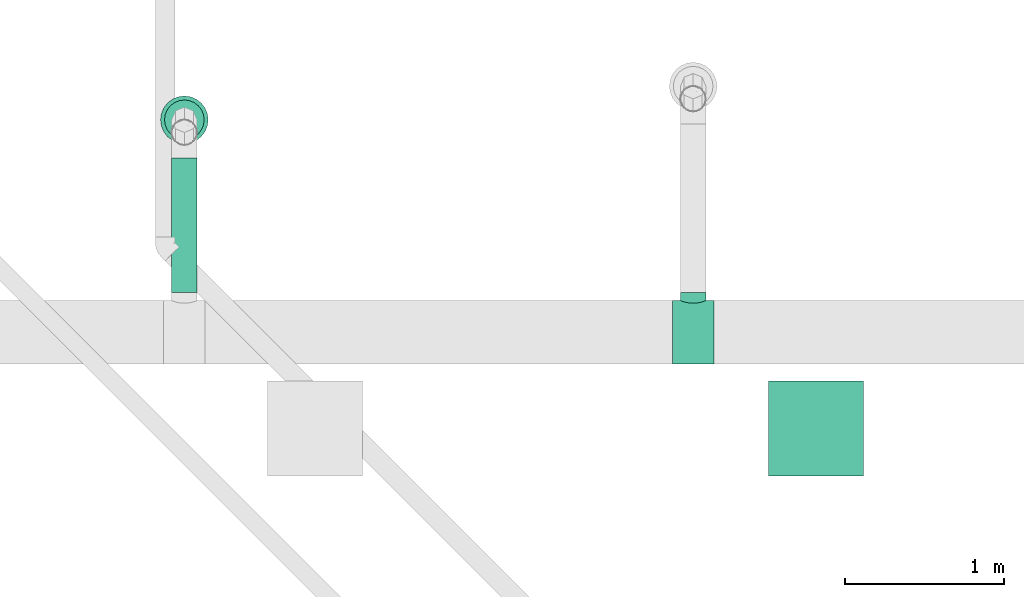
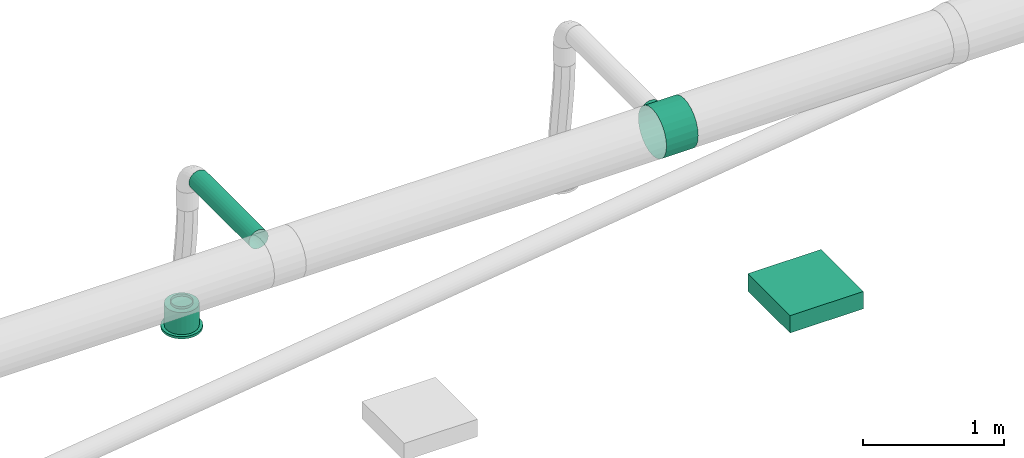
# One storey, part 152 of 374: 1 distribution element, 1 flow fitting, 1 flow segment, 1 flow terminal.
"""IFC2X3 building model written with IfcOpenShell, lengths in metres."""

from ifc_helpers import new_model, si_unit, direction, frame, frame_2d, origin, place, context, subcontext, project, spatial, rectangle, extrude, open_shell, surface_model, source, transform, mapped, element, save


model = new_model("IFC2X3")

# Units and contexts
model_context = context("Model", 3, precision=1e-05, world=origin(), true_north=direction((-0.4480736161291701, 0.8939966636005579)))
body_context = subcontext(model_context, "Body", "Model", "MODEL_VIEW")
ifc_project = project(units=[si_unit("LENGTHUNIT", "METRE"), si_unit("AREAUNIT", "SQUARE_METRE"), si_unit("VOLUMEUNIT", "CUBIC_METRE"), si_unit("PLANEANGLEUNIT", "RADIAN"), si_unit("THERMODYNAMICTEMPERATUREUNIT", "KELVIN"), si_unit("MASSUNIT", "GRAM", prefix="KILO"), si_unit("TIMEUNIT", "SECOND")], contexts=[model_context])

# Site, building, storey
site_placement = place(None, origin())
site = spatial("IfcSite", under=ifc_project, at=site_placement, Name="Site 1", CompositionType="ELEMENT")
building_placement = place(site_placement, origin())
building = spatial("IfcBuilding", under=site, at=building_placement, Name="Undefined", CompositionType="ELEMENT")
storey_placement = place(building_placement, origin())
storey = spatial("IfcBuildingStorey", under=building, at=storey_placement, Name="Rez de chauss\x8ee", CompositionType="ELEMENT", Elevation=0.0)

# Flow terminal
shared_shape_1 = source(origin(), body_context, "Body", "SurfaceModel", [
    surface_model("IfcFaceBasedSurfaceModel", [(0.0, 0.0, 0.0), (0.03915785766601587, 0.0, 0.0), (0.03915785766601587, 0.020000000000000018, 0.0), (3.552713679e-15, 0.020000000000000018, 0.0), (0.07698144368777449, 0.0, -0.010134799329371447), (0.07698144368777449, 0.020000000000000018, -0.010134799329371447), (0.11089314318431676, 0.0, -0.02971372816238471), (0.11089314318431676, 0.020000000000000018, -0.02971372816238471), (0.13858192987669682, 0.0, -0.05740251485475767), (0.13858192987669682, 0.020000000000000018, -0.05740251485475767), (0.15816085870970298, 0.0, -0.09131421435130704), (0.15816085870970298, 0.020000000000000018, -0.09131421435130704), (0.16829565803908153, 0.0, -0.12913780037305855), (0.16829565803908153, 0.020000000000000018, -0.12913780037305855), (0.16829565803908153, 0.0, -0.16829565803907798), (0.16829565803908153, 0.020000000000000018, -0.16829565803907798), (0.15816085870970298, 0.0, -0.20611924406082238), (0.15816085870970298, 0.020000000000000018, -0.20611924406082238), (0.13858192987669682, 0.0, -0.24003094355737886), (0.13858192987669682, 0.020000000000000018, -0.24003094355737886), (0.11089314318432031, 0.0, -0.2677197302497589), (0.11089314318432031, 0.020000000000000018, -0.2677197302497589), (0.07698144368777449, 0.0, -0.2872986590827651), (0.07698144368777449, 0.020000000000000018, -0.2872986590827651), (0.039157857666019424, 0.0, -0.29743345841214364), (0.039157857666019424, 0.020000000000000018, -0.29743345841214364), (3.552713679e-15, 0.0, -0.29743345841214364), (3.552713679e-15, 0.020000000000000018, -0.29743345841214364), (-0.03782358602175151, 0.0, -0.2872986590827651), (-0.03782358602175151, 0.020000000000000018, -0.2872986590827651), (-0.07173528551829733, 0.0, -0.2677197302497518), (-0.07173528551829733, 0.020000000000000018, -0.2677197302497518), (-0.0994240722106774, 0.0, -0.24003094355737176), (-0.0994240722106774, 0.020000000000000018, -0.24003094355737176), (-0.11900300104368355, 0.0, -0.2061192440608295), (-0.11900300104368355, 0.020000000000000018, -0.2061192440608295), (-0.1291378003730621, 0.0, -0.16829565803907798), (-0.1291378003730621, 0.020000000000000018, -0.16829565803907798), (-0.1291378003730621, 0.0, -0.12913780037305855), (-0.1291378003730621, 0.020000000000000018, -0.12913780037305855), (-0.11900300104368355, 0.0, -0.09131421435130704), (-0.11900300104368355, 0.020000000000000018, -0.09131421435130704), (-0.0994240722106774, 0.0, -0.05740251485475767), (-0.0994240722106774, 0.020000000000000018, -0.05740251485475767), (-0.07173528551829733, 0.0, -0.029713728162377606), (-0.07173528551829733, 0.020000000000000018, -0.029713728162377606), (-0.03782358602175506, 0.0, -0.010134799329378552), (-0.03782358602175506, 0.020000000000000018, -0.010134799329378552), (0.019578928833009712, 0.0, -0.14871672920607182), (0.019578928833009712, 0.020000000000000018, -0.14871672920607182), (0.003263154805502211, 0.020000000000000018, -0.02478612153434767), (0.035894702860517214, 0.020000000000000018, -0.02478612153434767), (0.035894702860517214, 0.20999999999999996, -0.02478612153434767), (0.003263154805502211, 0.20999999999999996, -0.02478612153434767), (0.06741435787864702, 0.020000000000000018, -0.033231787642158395), (0.06741435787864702, 0.20999999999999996, -0.033231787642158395), (0.0956741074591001, 0.020000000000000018, -0.04954756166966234), (0.0956741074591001, 0.20999999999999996, -0.04954756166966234), (0.11874809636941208, 0.020000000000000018, -0.07262155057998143), (0.11874809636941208, 0.20999999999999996, -0.07262155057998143), (0.13506387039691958, 0.020000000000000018, -0.10088130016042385), (0.13506387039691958, 0.20999999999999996, -0.10088130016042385), (0.1435095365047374, 0.020000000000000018, -0.13240095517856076), (0.1435095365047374, 0.20999999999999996, -0.13240095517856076), (0.1435095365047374, 0.020000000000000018, -0.16503250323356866), (0.1435095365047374, 0.20999999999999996, -0.16503250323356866), (0.13506387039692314, 0.020000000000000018, -0.19655215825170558), (0.13506387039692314, 0.20999999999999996, -0.19655215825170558), (0.11874809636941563, 0.020000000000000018, -0.2248119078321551), (0.11874809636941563, 0.20999999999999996, -0.2248119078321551), (0.09567410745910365, 0.020000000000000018, -0.24788589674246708), (0.09567410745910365, 0.20999999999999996, -0.24788589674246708), (0.06741435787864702, 0.020000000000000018, -0.26420167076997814), (0.06741435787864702, 0.20999999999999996, -0.26420167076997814), (0.035894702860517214, 0.020000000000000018, -0.27264733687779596), (0.035894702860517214, 0.20999999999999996, -0.27264733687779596), (0.0032631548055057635, 0.020000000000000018, -0.27264733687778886), (0.0032631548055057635, 0.20999999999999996, -0.27264733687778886), (-0.028256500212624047, 0.020000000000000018, -0.26420167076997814), (-0.028256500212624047, 0.20999999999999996, -0.26420167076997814), (-0.05651624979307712, 0.020000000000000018, -0.2478858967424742), (-0.05651624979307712, 0.20999999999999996, -0.2478858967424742), (-0.07959023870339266, 0.020000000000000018, -0.2248119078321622), (-0.07959023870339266, 0.20999999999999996, -0.2248119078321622), (-0.09590601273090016, 0.020000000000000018, -0.19655215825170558), (-0.09590601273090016, 0.20999999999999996, -0.19655215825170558), (-0.10435167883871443, 0.020000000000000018, -0.16503250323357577), (-0.10435167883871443, 0.20999999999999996, -0.16503250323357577), (-0.10435167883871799, 0.020000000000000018, -0.13240095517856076), (-0.10435167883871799, 0.20999999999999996, -0.13240095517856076), (-0.09590601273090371, 0.020000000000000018, -0.10088130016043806), (-0.09590601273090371, 0.20999999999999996, -0.10088130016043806), (-0.07959023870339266, 0.020000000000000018, -0.07262155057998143), (-0.07959023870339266, 0.20999999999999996, -0.07262155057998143), (-0.056516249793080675, 0.020000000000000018, -0.04954756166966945), (-0.056516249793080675, 0.20999999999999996, -0.04954756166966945), (-0.028256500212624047, 0.020000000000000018, -0.033231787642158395), (-0.028256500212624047, 0.20999999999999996, -0.033231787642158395), (0.019578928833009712, 0.20999999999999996, -0.14871672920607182), (0.009136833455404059, 0.20999999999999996, -0.06940114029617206), (0.030021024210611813, 0.20999999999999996, -0.06940114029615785), (0.030021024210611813, 0.22999999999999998, -0.06940114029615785), (0.009136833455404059, 0.22999999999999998, -0.06940114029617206), (0.05019360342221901, 0.20999999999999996, -0.07480636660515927), (0.05019360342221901, 0.22999999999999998, -0.07480636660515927), (0.06827984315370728, 0.20999999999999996, -0.08524846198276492), (0.06827984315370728, 0.22999999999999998, -0.08524846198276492), (0.0830471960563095, 0.20999999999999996, -0.10001581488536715), (0.0830471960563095, 0.22999999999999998, -0.10001581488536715), (0.0934892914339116, 0.20999999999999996, -0.11810205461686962), (0.0934892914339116, 0.22999999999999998, -0.11810205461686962), (0.09889451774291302, 0.20999999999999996, -0.13827463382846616), (0.09889451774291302, 0.22999999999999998, -0.13827463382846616), (0.09889451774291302, 0.20999999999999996, -0.15915882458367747), (0.09889451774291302, 0.22999999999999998, -0.15915882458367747), (0.09348929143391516, 0.20999999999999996, -0.179331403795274), (0.09348929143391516, 0.22999999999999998, -0.179331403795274), (0.0830471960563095, 0.20999999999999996, -0.19741764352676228), (0.0830471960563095, 0.22999999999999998, -0.19741764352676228), (0.06827984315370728, 0.20999999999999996, -0.2121849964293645), (0.06827984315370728, 0.22999999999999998, -0.2121849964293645), (0.05019360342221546, 0.20999999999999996, -0.22262709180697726), (0.05019360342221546, 0.22999999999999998, -0.22262709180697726), (0.030021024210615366, 0.20999999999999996, -0.22803231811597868), (0.030021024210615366, 0.22999999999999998, -0.22803231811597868), (0.009136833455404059, 0.20999999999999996, -0.22803231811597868), (0.009136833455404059, 0.22999999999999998, -0.22803231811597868), (-0.011035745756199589, 0.20999999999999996, -0.22262709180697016), (-0.011035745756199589, 0.22999999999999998, -0.22262709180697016), (-0.0291219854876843, 0.20999999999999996, -0.2121849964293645), (-0.0291219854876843, 0.22999999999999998, -0.2121849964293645), (-0.043889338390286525, 0.20999999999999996, -0.19741764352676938), (-0.043889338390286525, 0.22999999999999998, -0.19741764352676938), (-0.05433143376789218, 0.20999999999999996, -0.17933140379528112), (-0.05433143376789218, 0.22999999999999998, -0.17933140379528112), (-0.05973666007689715, 0.20999999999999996, -0.15915882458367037), (-0.05973666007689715, 0.22999999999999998, -0.15915882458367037), (-0.0597366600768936, 0.20999999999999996, -0.13827463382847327), (-0.0597366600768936, 0.22999999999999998, -0.13827463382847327), (-0.05433143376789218, 0.20999999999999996, -0.11810205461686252), (-0.05433143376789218, 0.22999999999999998, -0.11810205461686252), (-0.043889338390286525, 0.20999999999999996, -0.10001581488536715), (-0.043889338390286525, 0.22999999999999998, -0.10001581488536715), (-0.02912198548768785, 0.20999999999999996, -0.08524846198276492), (-0.02912198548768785, 0.22999999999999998, -0.08524846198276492), (-0.011035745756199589, 0.20999999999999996, -0.07480636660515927), (-0.011035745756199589, 0.22999999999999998, -0.07480636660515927)], [open_shell([[[0, 1, 2, 3]], [[1, 4, 5, 2]], [[4, 6, 7, 5]], [[6, 8, 9, 7]], [[8, 10, 11, 9]], [[10, 12, 13, 11]], [[12, 14, 15, 13]], [[14, 16, 17, 15]], [[16, 18, 19, 17]], [[18, 20, 21, 19]], [[20, 22, 23, 21]], [[22, 24, 25, 23]], [[24, 26, 27, 25]], [[26, 28, 29, 27]], [[28, 30, 31, 29]], [[30, 32, 33, 31]], [[32, 34, 35, 33]], [[34, 36, 37, 35]], [[36, 38, 39, 37]], [[38, 40, 41, 39]], [[40, 42, 43, 41]], [[42, 44, 45, 43]], [[44, 46, 47, 45]], [[46, 0, 3, 47]], [[48, 1, 0]], [[48, 4, 1]], [[48, 6, 4]], [[48, 8, 6]], [[48, 10, 8]], [[48, 12, 10]], [[48, 14, 12]], [[48, 16, 14]], [[48, 18, 16]], [[48, 20, 18]], [[48, 22, 20]], [[48, 24, 22]], [[48, 26, 24]], [[48, 28, 26]], [[48, 30, 28]], [[48, 32, 30]], [[48, 34, 32]], [[48, 36, 34]], [[48, 38, 36]], [[48, 40, 38]], [[48, 42, 40]], [[48, 44, 42]], [[48, 46, 44]], [[48, 0, 46]], [[49, 47, 3]], [[49, 45, 47]], [[49, 43, 45]], [[49, 41, 43]], [[49, 39, 41]], [[49, 37, 39]], [[49, 35, 37]], [[49, 33, 35]], [[49, 31, 33]], [[49, 29, 31]], [[49, 27, 29]], [[49, 25, 27]], [[49, 23, 25]], [[49, 21, 23]], [[49, 19, 21]], [[49, 17, 19]], [[49, 15, 17]], [[49, 13, 15]], [[49, 11, 13]], [[49, 9, 11]], [[49, 7, 9]], [[49, 5, 7]], [[49, 2, 5]], [[49, 3, 2]], [[50, 51, 52, 53]], [[51, 54, 55, 52]], [[54, 56, 57, 55]], [[56, 58, 59, 57]], [[58, 60, 61, 59]], [[60, 62, 63, 61]], [[62, 64, 65, 63]], [[64, 66, 67, 65]], [[66, 68, 69, 67]], [[68, 70, 71, 69]], [[70, 72, 73, 71]], [[72, 74, 75, 73]], [[74, 76, 77, 75]], [[76, 78, 79, 77]], [[78, 80, 81, 79]], [[80, 82, 83, 81]], [[82, 84, 85, 83]], [[84, 86, 87, 85]], [[86, 88, 89, 87]], [[88, 90, 91, 89]], [[90, 92, 93, 91]], [[92, 94, 95, 93]], [[94, 96, 97, 95]], [[96, 50, 53, 97]], [[49, 51, 50]], [[49, 54, 51]], [[49, 56, 54]], [[49, 58, 56]], [[49, 60, 58]], [[49, 62, 60]], [[49, 64, 62]], [[49, 66, 64]], [[49, 68, 66]], [[49, 70, 68]], [[49, 72, 70]], [[49, 74, 72]], [[49, 76, 74]], [[49, 78, 76]], [[49, 80, 78]], [[49, 82, 80]], [[49, 84, 82]], [[49, 86, 84]], [[49, 88, 86]], [[49, 90, 88]], [[49, 92, 90]], [[49, 94, 92]], [[49, 96, 94]], [[49, 50, 96]], [[98, 97, 53]], [[98, 95, 97]], [[98, 93, 95]], [[98, 91, 93]], [[98, 89, 91]], [[98, 87, 89]], [[98, 85, 87]], [[98, 83, 85]], [[98, 81, 83]], [[98, 79, 81]], [[98, 77, 79]], [[98, 75, 77]], [[98, 73, 75]], [[98, 71, 73]], [[98, 69, 71]], [[98, 67, 69]], [[98, 65, 67]], [[98, 63, 65]], [[98, 61, 63]], [[98, 59, 61]], [[98, 57, 59]], [[98, 55, 57]], [[98, 52, 55]], [[98, 53, 52]], [[99, 100, 101, 102]], [[100, 103, 104, 101]], [[103, 105, 106, 104]], [[105, 107, 108, 106]], [[107, 109, 110, 108]], [[109, 111, 112, 110]], [[111, 113, 114, 112]], [[113, 115, 116, 114]], [[115, 117, 118, 116]], [[117, 119, 120, 118]], [[119, 121, 122, 120]], [[121, 123, 124, 122]], [[123, 125, 126, 124]], [[125, 127, 128, 126]], [[127, 129, 130, 128]], [[129, 131, 132, 130]], [[131, 133, 134, 132]], [[133, 135, 136, 134]], [[135, 137, 138, 136]], [[137, 139, 140, 138]], [[139, 141, 142, 140]], [[141, 143, 144, 142]], [[143, 145, 146, 144]], [[145, 99, 102, 146]]])]),
])
flow_terminal_placement = place(storey_placement, origin())
element("IfcFlowTerminal", 1, at=flow_terminal_placement, inside=storey, Name="Air diffuseur - bouche", ObjectType="Air diffuseur - bouche", context=body_context, shape_type="MappedRepresentation", body=[
    mapped(shared_shape_1, transform((38.2932894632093, 21.716888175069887, 2.38), x_axis=(0.9914448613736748, 0.13052619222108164, 0.0), y_axis=(0.0, 0.0, 1.0), z_axis=(0.13052619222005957, -0.9914448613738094, 0.0))),
])

# Flow fitting
shared_shape_2 = source(origin(), body_context, "Body", "SurfaceModel", [
    surface_model("IfcFaceBasedSurfaceModel", [(0.0, 0.05221047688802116, -8.8817842e-16), (0.0, 0.0, 0.0), (0.2599999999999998, -7.105427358e-15, 0.0), (0.2599999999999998, 0.05221047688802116, -8.8817842e-16), (0.0, -0.05043144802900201, -0.013513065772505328), (0.2599999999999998, -0.05043144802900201, -0.013513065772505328), (0.0, -0.09564704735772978, -0.0396183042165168), (0.2599999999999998, -0.09564704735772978, -0.0396183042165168), (0.0, -0.1325654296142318, -0.07653668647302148), (0.2599999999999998, -0.1325654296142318, -0.07653668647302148), (0.0, -0.15867066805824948, -0.12175228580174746), (0.2599999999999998, -0.15867066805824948, -0.12175228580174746), (0.0, -0.17218373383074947, -0.17218373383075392), (0.2599999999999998, -0.17218373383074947, -0.17218373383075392), (0.0, -0.17218373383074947, -0.22439421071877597), (0.2599999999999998, -0.17218373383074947, -0.22439421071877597), (0.0, -0.15867066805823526, -0.2748256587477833), (0.2599999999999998, -0.15867066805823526, -0.2748256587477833), (0.0, -0.1325654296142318, -0.3200412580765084), (0.2599999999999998, -0.1325654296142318, -0.3200412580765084), (0.0, -0.09564704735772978, -0.35695964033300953), (0.2599999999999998, -0.09564704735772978, -0.35695964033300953), (0.0, -0.050431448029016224, -0.3830648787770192), (0.2599999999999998, -0.050431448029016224, -0.3830648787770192), (0.0, 0.0, -0.39657794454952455), (0.2599999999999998, 0.0, -0.39657794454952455), (0.0, 0.05221047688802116, -0.3965779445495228), (0.2599999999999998, 0.05221047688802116, -0.3965779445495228), (0.0, 0.10264192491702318, -0.38306487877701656), (0.2599999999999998, 0.10264192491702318, -0.38306487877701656), (0.0, 0.14785752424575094, -0.356959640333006), (0.2599999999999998, 0.14785752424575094, -0.356959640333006), (0.0, 0.18477590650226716, -0.32004125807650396), (0.2599999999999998, 0.18477590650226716, -0.32004125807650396), (0.0, 0.21088114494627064, -0.2748256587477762), (0.2599999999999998, 0.21088114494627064, -0.2748256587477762), (0.0, 0.22439421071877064, -0.22439421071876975), (0.2599999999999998, 0.22439421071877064, -0.22439421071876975), (0.0, 0.22439421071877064, -0.1721837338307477), (0.2599999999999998, 0.22439421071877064, -0.1721837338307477), (0.0, 0.21088114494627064, -0.12175228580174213), (0.2599999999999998, 0.21088114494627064, -0.12175228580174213), (0.0, 0.18477590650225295, -0.07653668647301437), (0.2599999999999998, 0.18477590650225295, -0.07653668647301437), (0.0, 0.14785752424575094, -0.03961830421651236), (0.2599999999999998, 0.14785752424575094, -0.03961830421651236), (0.0, 0.10264192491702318, -0.013513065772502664), (0.2599999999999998, 0.10264192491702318, -0.013513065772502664), (0.20999999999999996, 0.22439421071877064, -0.22439421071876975), (0.2072740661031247, 0.2206261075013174, -0.24478232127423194), (0.2072740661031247, 0.2712638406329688, -0.2514489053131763), (0.20999999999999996, 0.273966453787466, -0.23092052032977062), (0.19928203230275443, 0.21516691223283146, -0.263524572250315), (0.19928203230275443, 0.2687454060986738, -0.27057831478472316), (0.18656854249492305, 0.20891366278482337, -0.2794128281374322), (0.18656854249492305, 0.2665827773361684, -0.2870051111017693), (0.16999999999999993, 0.20307366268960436, -0.291467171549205), (0.16999999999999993, 0.26492333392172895, -0.29960983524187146), (0.15070552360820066, 0.19890954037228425, -0.2989799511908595), (0.15070552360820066, 0.26388016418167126, -0.307533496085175), (0.1299999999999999, 0.19739798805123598, -0.3015304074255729), (0.1299999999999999, 0.26352435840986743, -0.3102361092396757), (0.10929447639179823, 0.19890954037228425, -0.2989799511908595), (0.10929447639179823, 0.26388016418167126, -0.307533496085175), (0.08999999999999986, 0.20307366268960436, -0.291467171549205), (0.08999999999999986, 0.26492333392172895, -0.29960983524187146), (0.07343145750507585, 0.20891366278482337, -0.2794128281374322), (0.07343145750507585, 0.2665827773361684, -0.2870051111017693), (0.06071796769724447, 0.21516691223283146, -0.263524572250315), (0.06071796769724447, 0.2687454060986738, -0.27057831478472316), (0.05272593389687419, 0.2206261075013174, -0.24478232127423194), (0.05272593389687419, 0.2712638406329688, -0.2514489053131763), (0.04999999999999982, 0.22439421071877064, -0.22439421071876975), (0.04999999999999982, 0.273966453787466, -0.23092052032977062), (0.05272593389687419, 0.22603133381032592, -0.20372555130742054), (0.05272593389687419, 0.27666906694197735, -0.21039213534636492), (0.06071796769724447, 0.22560900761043, -0.18420898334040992), (0.06071796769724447, 0.27918750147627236, -0.19126272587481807), (0.07343145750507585, 0.2236810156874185, -0.16724364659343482), (0.07343145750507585, 0.28135013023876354, -0.17483592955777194), (0.08999999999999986, 0.22115990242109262, -0.1540885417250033), (0.08999999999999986, 0.2830095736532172, -0.16223120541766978), (0.10929447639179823, 0.2190821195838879, -0.14575399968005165), (0.10929447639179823, 0.2840527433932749, -0.15430754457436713), (0.1299999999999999, 0.2182821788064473, -0.14289922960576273), (0.1299999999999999, 0.28440854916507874, -0.15160493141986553), (0.15070552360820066, 0.2190821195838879, -0.14575399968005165), (0.15070552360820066, 0.2840527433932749, -0.15430754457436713), (0.16999999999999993, 0.22115990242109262, -0.1540885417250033), (0.16999999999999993, 0.2830095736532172, -0.16223120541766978), (0.18656854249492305, 0.2236810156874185, -0.16724364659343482), (0.18656854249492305, 0.28135013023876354, -0.17483592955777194), (0.19928203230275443, 0.22560900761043, -0.18420898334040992), (0.19928203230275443, 0.27918750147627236, -0.19126272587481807), (0.2072740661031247, 0.22603133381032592, -0.20372555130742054), (0.2072740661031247, 0.27666906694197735, -0.21039213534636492)], [open_shell([[[0, 1, 2, 3]], [[1, 4, 5, 2]], [[4, 6, 7, 5]], [[6, 8, 9, 7]], [[8, 10, 11, 9]], [[10, 12, 13, 11]], [[12, 14, 15, 13]], [[14, 16, 17, 15]], [[16, 18, 19, 17]], [[18, 20, 21, 19]], [[20, 22, 23, 21]], [[22, 24, 25, 23]], [[24, 26, 27, 25]], [[26, 28, 29, 27]], [[28, 30, 31, 29]], [[30, 32, 33, 31]], [[32, 34, 35, 33]], [[34, 36, 37, 35]], [[36, 38, 39, 37]], [[38, 40, 41, 39]], [[40, 42, 43, 41]], [[42, 44, 45, 43]], [[44, 46, 47, 45]], [[46, 0, 3, 47]], [[48, 49, 50, 51]], [[49, 52, 53, 50]], [[52, 54, 55, 53]], [[54, 56, 57, 55]], [[56, 58, 59, 57]], [[58, 60, 61, 59]], [[60, 62, 63, 61]], [[62, 64, 65, 63]], [[64, 66, 67, 65]], [[66, 68, 69, 67]], [[68, 70, 71, 69]], [[70, 72, 73, 71]], [[72, 74, 75, 73]], [[74, 76, 77, 75]], [[76, 78, 79, 77]], [[78, 80, 81, 79]], [[80, 82, 83, 81]], [[82, 84, 85, 83]], [[84, 86, 87, 85]], [[86, 88, 89, 87]], [[88, 90, 91, 89]], [[90, 92, 93, 91]], [[92, 94, 95, 93]], [[94, 48, 51, 95]]])]),
])
flow_fitting_placement = place(storey_placement, origin())
element("IfcFlowFitting", 2, at=flow_fitting_placement, inside=storey, Name="Pièce en té 90°", ObjectType="Pièce en té 90°", context=body_context, shape_type="MappedRepresentation", body=[
    mapped(shared_shape_2, transform((41.371184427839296, 20.475124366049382, 3.9931851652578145), x_axis=(1.0, 0.0, 0.0), y_axis=(0.0, 0.9914448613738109, 0.1305261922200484), z_axis=(0.0, -0.1305261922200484, 0.9914448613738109))),
])

# Flow segment
shared_shape_3 = source(origin(), body_context, "Body", "SurfaceModel", [
    surface_model("IfcFaceBasedSurfaceModel", [(0.0, 0.020884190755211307, 0.0), (0.0, 0.0, 0.0), (0.8500000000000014, -7.105427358e-15, 0.0), (0.8500000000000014, 0.0208841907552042, 0.0), (0.0, -0.020172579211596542, -0.005405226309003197), (0.8500000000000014, -0.020172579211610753, -0.005405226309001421), (0.0, -0.03825881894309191, -0.015847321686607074), (0.8500000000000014, -0.038258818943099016, -0.015847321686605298), (0.0, -0.05302617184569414, -0.0306146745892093), (0.8500000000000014, -0.05302617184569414, -0.030614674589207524), (0.0, -0.06346826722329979, -0.04870091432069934), (0.8500000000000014, -0.06346826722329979, -0.048700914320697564), (0.0, -0.06887349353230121, -0.06887349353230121), (0.8500000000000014, -0.06887349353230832, -0.06887349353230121), (0.0, -0.06887349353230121, -0.08975768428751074), (0.8500000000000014, -0.06887349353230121, -0.08975768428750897), (0.0, -0.06346826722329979, -0.10993026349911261), (0.8500000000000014, -0.06346826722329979, -0.10993026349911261), (0.0, -0.05302617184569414, -0.12801650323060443), (0.8500000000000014, -0.05302617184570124, -0.12801650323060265), (0.0, -0.038258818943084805, -0.14278385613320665), (0.8500000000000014, -0.03825881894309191, -0.1427838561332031), (0.0, -0.020172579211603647, -0.15322595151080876), (0.8500000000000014, -0.020172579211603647, -0.15322595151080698), (0.0, 7.105427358e-15, -0.15863117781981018), (0.8500000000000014, 0.0, -0.1586311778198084), (0.0, 0.020884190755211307, -0.15863117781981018), (0.8500000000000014, 0.020884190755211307, -0.1586311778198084), (0.0, 0.04105676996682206, -0.15322595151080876), (0.8500000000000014, 0.041056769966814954, -0.1532259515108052), (0.0, 0.05914300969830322, -0.1427838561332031), (0.8500000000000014, 0.05914300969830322, -0.14278385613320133), (0.0, 0.07391036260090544, -0.12801650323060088), (0.8500000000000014, 0.07391036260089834, -0.12801650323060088), (0.0, 0.0843524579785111, -0.10993026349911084), (0.8500000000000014, 0.08435245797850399, -0.10993026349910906), (0.0, 0.08975768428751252, -0.08975768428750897), (0.8500000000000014, 0.08975768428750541, -0.08975768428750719), (0.0, 0.08975768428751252, -0.06887349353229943), (0.8500000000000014, 0.08975768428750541, -0.06887349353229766), (0.0, 0.0843524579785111, -0.048700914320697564), (0.8500000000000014, 0.08435245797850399, -0.04870091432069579), (0.0, 0.07391036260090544, -0.030614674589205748), (0.8500000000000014, 0.07391036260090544, -0.030614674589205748), (0.0, 0.05914300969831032, -0.015847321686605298), (0.8500000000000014, 0.05914300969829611, -0.01584732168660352), (0.0, 0.04105676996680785, -0.005405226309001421), (0.8500000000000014, 0.04105676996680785, -0.005405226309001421)], [open_shell([[[0, 1, 2, 3]], [[1, 4, 5, 2]], [[4, 6, 7, 5]], [[6, 8, 9, 7]], [[8, 10, 11, 9]], [[10, 12, 13, 11]], [[12, 14, 15, 13]], [[14, 16, 17, 15]], [[16, 18, 19, 17]], [[18, 20, 21, 19]], [[20, 22, 23, 21]], [[22, 24, 25, 23]], [[24, 26, 27, 25]], [[26, 28, 29, 27]], [[28, 30, 31, 29]], [[30, 32, 33, 31]], [[32, 34, 35, 33]], [[34, 36, 37, 35]], [[36, 38, 39, 37]], [[38, 40, 41, 39]], [[40, 42, 43, 41]], [[42, 44, 45, 43]], [[44, 46, 47, 45]], [[46, 0, 3, 47]]])]),
])
flow_segment_placement = place(storey_placement, origin())
element("IfcFlowSegment", 3, at=flow_segment_placement, inside=storey, Name="Tube", ObjectType="Tube", context=body_context, shape_type="MappedRepresentation", body=[
    mapped(shared_shape_3, transform((38.27258393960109, 20.776888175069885, 3.7227259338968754), x_axis=(0.0, 1.0, 0.0), y_axis=(0.9914448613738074, 0.0, -0.13052619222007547), z_axis=(-0.13052619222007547, 0.0, -0.9914448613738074))),
])

# Distribution element
distribution_element_placement = place(storey_placement, origin())
element("IfcDistributionElement", 4, at=distribution_element_placement, inside=storey, Name="Decken-Rechteckleuchte mit Rahmen AP", ObjectType="Decken-Rechteckleuchte mit Rahmen AP", context=body_context, shape_type="SweptSolid", body=[
    extrude(rectangle(XDim=0.6000000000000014, YDim=0.6000000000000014, at=frame_2d((3.552713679e-15, 0.0), x_axis=(0.0, 1.0))), frame((42.27471769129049, 19.920550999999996, 2.5500000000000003), z_axis=(0.0, 0.0, -1.0), x_axis=(1.0, 0.0, 0.0)), (0.0, 0.0, 1.0), 0.15),
])

save(model, "model.ifc")
